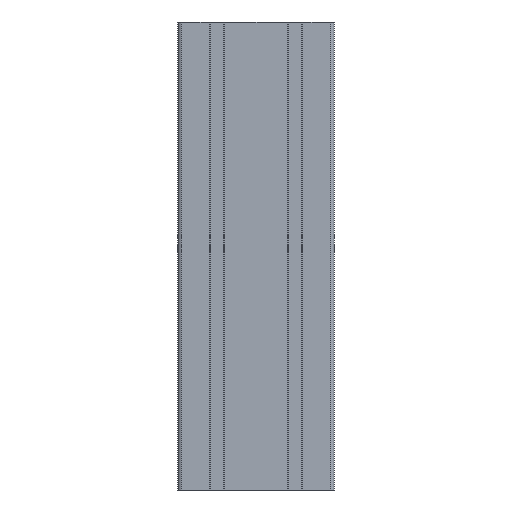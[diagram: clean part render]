
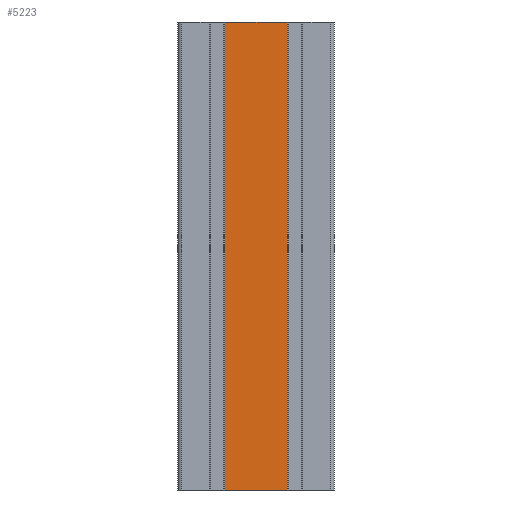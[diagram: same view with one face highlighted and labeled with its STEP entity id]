
A CAD part, front view. The second image highlights one B-rep face of the part: STEP entity #5223.
In plain terms, the highlighted planar face has unit normal (0, -1, 0).
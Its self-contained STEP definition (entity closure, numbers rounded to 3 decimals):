
#187 = EDGE_CURVE ( 'NONE', #2473, #2714, #607, .T. ) ;
#250 = CARTESIAN_POINT ( 'NONE',  ( 3388.698, 575.852, 300. ) ) ;
#267 = ORIENTED_EDGE ( 'NONE', *, *, #5160, .F. ) ;
#607 = LINE ( 'NONE', #7604, #7203 ) ;
#643 = DIRECTION ( 'NONE',  ( 1., 0., 0. ) ) ;
#786 = DIRECTION ( 'NONE',  ( 0., 0., -1. ) ) ;
#871 = ORIENTED_EDGE ( 'NONE', *, *, #1777, .T. ) ;
#998 = CARTESIAN_POINT ( 'NONE',  ( 3348.898, 575.852, 300. ) ) ;
#1189 = VERTEX_POINT ( 'NONE', #6264 ) ;
#1579 = VECTOR ( 'NONE', #4323, 1000. ) ;
#1614 = DIRECTION ( 'NONE',  ( 0., 0., -1. ) ) ;
#1777 = EDGE_CURVE ( 'NONE', #2714, #1189, #2947, .T. ) ;
#1913 = ORIENTED_EDGE ( 'NONE', *, *, #7767, .F. ) ;
#1951 = ORIENTED_EDGE ( 'NONE', *, *, #187, .T. ) ;
#2196 = FACE_OUTER_BOUND ( 'NONE', #6169, .T. ) ;
#2473 = VERTEX_POINT ( 'NONE', #998 ) ;
#2663 = DIRECTION ( 'NONE',  ( 0., 0., 1. ) ) ;
#2714 = VERTEX_POINT ( 'NONE', #2953 ) ;
#2841 = LINE ( 'NONE', #6909, #5673 ) ;
#2947 = LINE ( 'NONE', #3574, #4490 ) ;
#2953 = CARTESIAN_POINT ( 'NONE',  ( 3348.898, 575.852, 0. ) ) ;
#3574 = CARTESIAN_POINT ( 'NONE',  ( 3368.798, 575.852, 0. ) ) ;
#4123 = CARTESIAN_POINT ( 'NONE',  ( 3368.798, 575.852, 300. ) ) ;
#4323 = DIRECTION ( 'NONE',  ( 1., 0., 0. ) ) ;
#4490 = VECTOR ( 'NONE', #643, 1000. ) ;
#4496 = CARTESIAN_POINT ( 'NONE',  ( 3348.898, 575.852, 300. ) ) ;
#4923 = PLANE ( 'NONE',  #7270 ) ;
#5160 = EDGE_CURVE ( 'NONE', #2473, #7030, #5317, .T. ) ;
#5223 = ADVANCED_FACE ( 'NONE', ( #2196 ), #4923, .F. ) ;
#5317 = LINE ( 'NONE', #4496, #1579 ) ;
#5673 = VECTOR ( 'NONE', #1614, 1000. ) ;
#6169 = EDGE_LOOP ( 'NONE', ( #871, #1913, #267, #1951 ) ) ;
#6264 = CARTESIAN_POINT ( 'NONE',  ( 3388.698, 575.852, 0. ) ) ;
#6751 = DIRECTION ( 'NONE',  ( 0., 1., 0. ) ) ;
#6909 = CARTESIAN_POINT ( 'NONE',  ( 3388.698, 575.852, 300. ) ) ;
#7030 = VERTEX_POINT ( 'NONE', #250 ) ;
#7203 = VECTOR ( 'NONE', #786, 1000. ) ;
#7270 = AXIS2_PLACEMENT_3D ( 'NONE', #4123, #6751, #2663 ) ;
#7604 = CARTESIAN_POINT ( 'NONE',  ( 3348.898, 575.852, 300. ) ) ;
#7767 = EDGE_CURVE ( 'NONE', #7030, #1189, #2841, .T. ) ;
